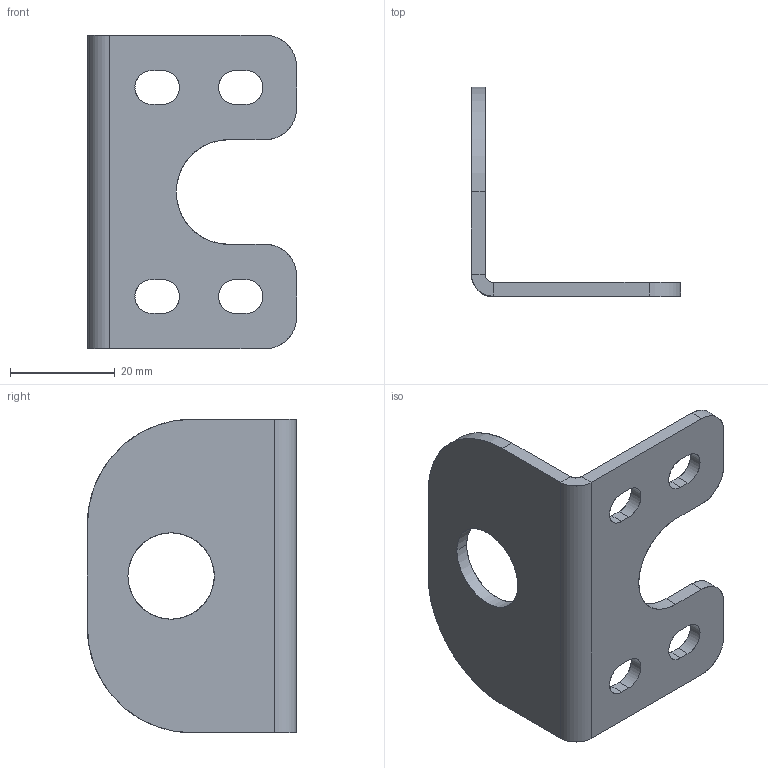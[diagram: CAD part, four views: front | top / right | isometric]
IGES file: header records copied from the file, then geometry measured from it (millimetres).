
Start section: SolidWorks IGES file using analytic representation for surfaces
Global section: file name: C:\Projetos\Componentes\02.Base\02.10044.IGS; native system: SolidWorks 2012; preprocessor: SolidWorks 2012; author: Ricardo; date: 121008.143021; units: millimetre
Bounding box: 40 x 40 x 60 mm (x, y, z)
Surface area: 8244.2 mm2 (no closed solid volume)
Topology: 0 solids, 0 shells, 42 faces, 698 edges, 698 vertices
Faces by surface type: bspline 23, revolution 19
